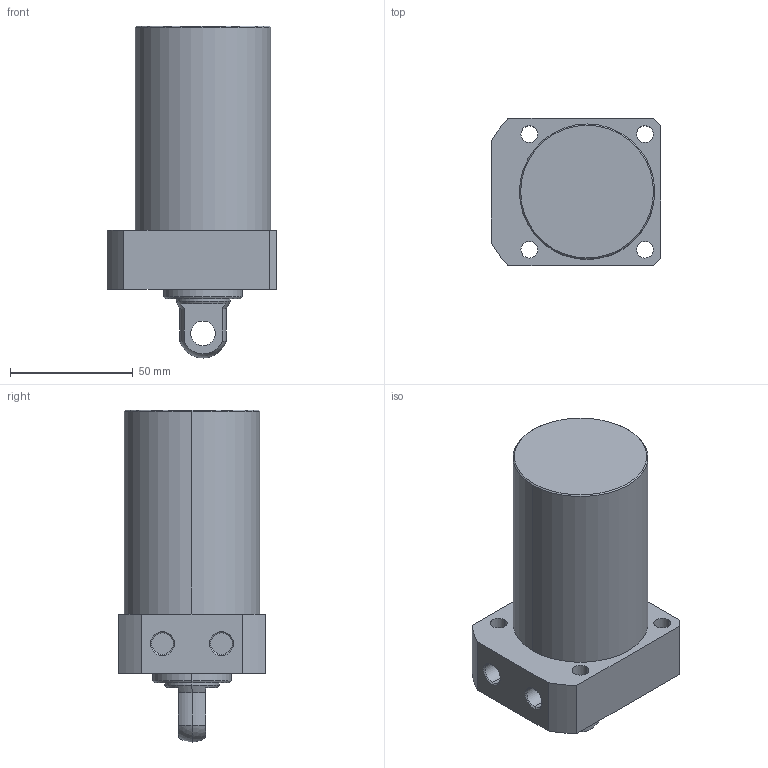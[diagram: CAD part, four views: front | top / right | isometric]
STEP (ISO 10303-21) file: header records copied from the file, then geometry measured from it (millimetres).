
FILE_DESCRIPTION (( 'STEP AP203' ), '1' );
FILE_NAME ('CLLR-055CP-070.STEP', '2019-12-19T08:31:08', ( '' ), ( '' ), 'SwSTEP 2.0', 'SolidWorks 2015', '' );
FILE_SCHEMA (( 'CONFIG_CONTROL_DESIGN' ));
Length unit declared in the file: millimetre
Products named in the file (1): CLLR-055CP-070
Bounding box: 69 x 60 x 135 mm (x, y, z)
Volume: 296443.1 mm3; surface area: 32619.3 mm2
Topology: 1 solids, 1 shells, 59 faces, 139 edges, 89 vertices
Faces by surface type: cylinder 29, plane 18, cone 10, sphere 2
Entity records: 1820 total; most frequent: DIRECTION 329, CARTESIAN_POINT 300, ORIENTED_EDGE 278, EDGE_CURVE 139, AXIS2_PLACEMENT_3D 134, VERTEX_POINT 89, EDGE_LOOP 76, CIRCLE 74
